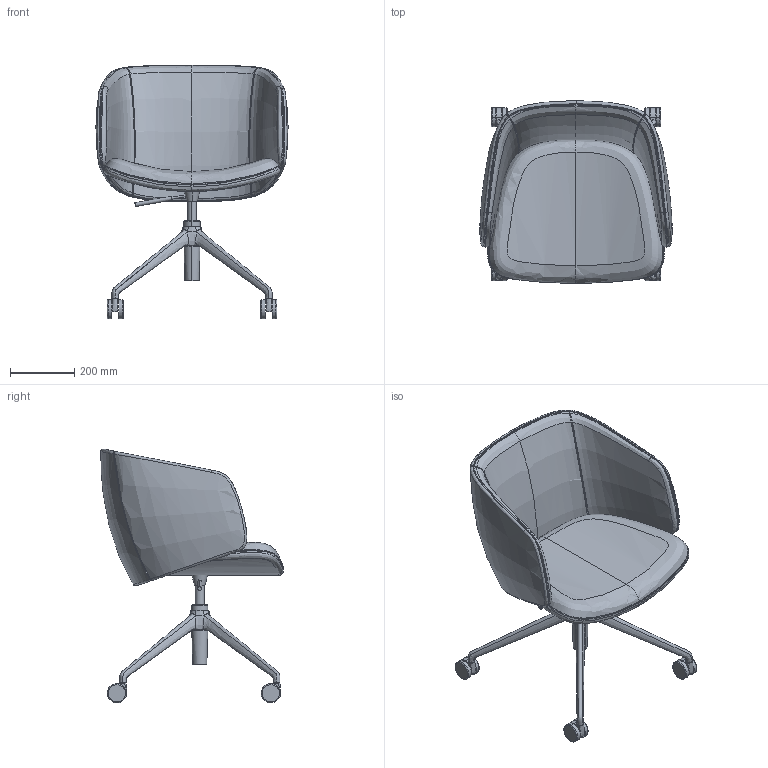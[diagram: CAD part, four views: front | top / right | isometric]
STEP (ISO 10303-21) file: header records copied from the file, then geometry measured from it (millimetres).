
FILE_DESCRIPTION(/* description */ (''),/* implementation_level */ '2;1');
FILE_NAME(/* name */ 'Winx WX 880-04',/* time_stamp */ '2021-03-30T00:52:51+02:00',/* author */ (''),/* organization */ (''),/* preprocessor_version */ 'ST-DEVELOPER v16.5',/* originating_system */ '',/* authorisation */ '');
FILE_SCHEMA (('CONFIG_CONTROL_DESIGN'));
Length unit declared in the file: millimetre
Products named in the file (1): Document
Bounding box: 600.84 x 570.29 x 792.91 mm (x, y, z)
Volume: 1436971.8 mm3; surface area: 1623384.4 mm2
Topology: 3 solids, 25 shells, 254 faces, 561 edges, 330 vertices
Faces by surface type: bspline 166, plane 52, cylinder 36
Entity records: 41689 total; most frequent: CARTESIAN_POINT 38302, ORIENTED_EDGE 1002, EDGE_CURVE 550, VERTEX_POINT 324, EDGE_LOOP 255, ADVANCED_FACE 254, FACE_OUTER_BOUND 254, B_SPLINE_CURVE_WITH_KNOTS 252
